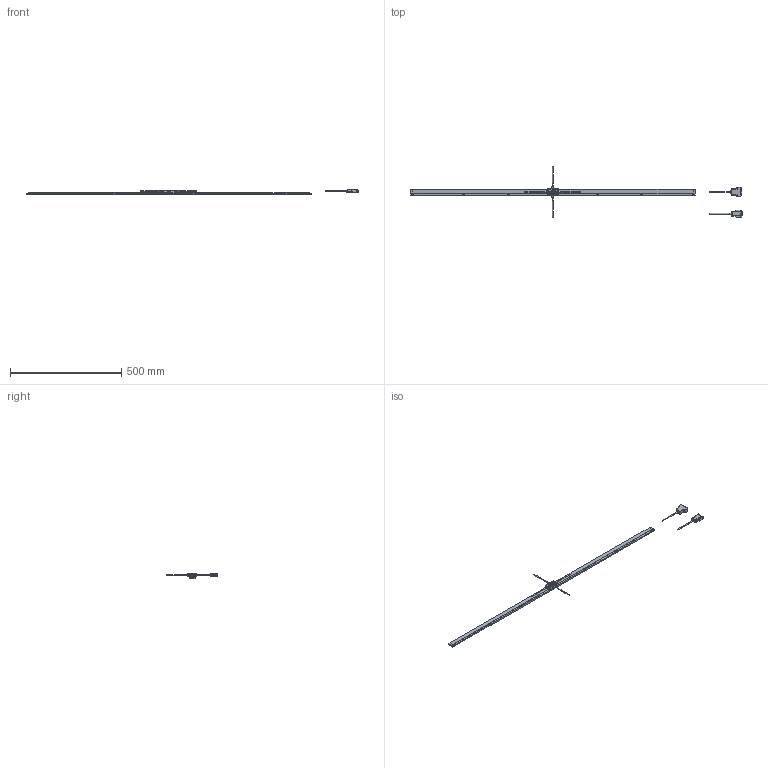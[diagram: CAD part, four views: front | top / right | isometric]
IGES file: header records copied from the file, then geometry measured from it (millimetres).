
Start section: Elysium IGES Interface
Global section: file name: 78H\\Utsu119s\kiyo_cad\data\3D\ST700_小型\HP掲載用_201802\PKG\ABS_ST700-1200A.igs; native system: Creo Elements/Direct Modeling 18.1B  29-Sep-2012; preprocessor: Creo Element/Direct IGES_3D V2.2; author: Unknown; organization: Unknown; date: 20180214.112650; units: millimetre
Bounding box: 1489.3 x 227.7 x 23.3 mm (x, y, z)
Volume: 334024.6 mm3; surface area: 122419.9 mm2
Topology: 7 solids, 7 shells, 6696 faces, 18317 edges, 12063 vertices
Faces by surface type: bspline 6696
